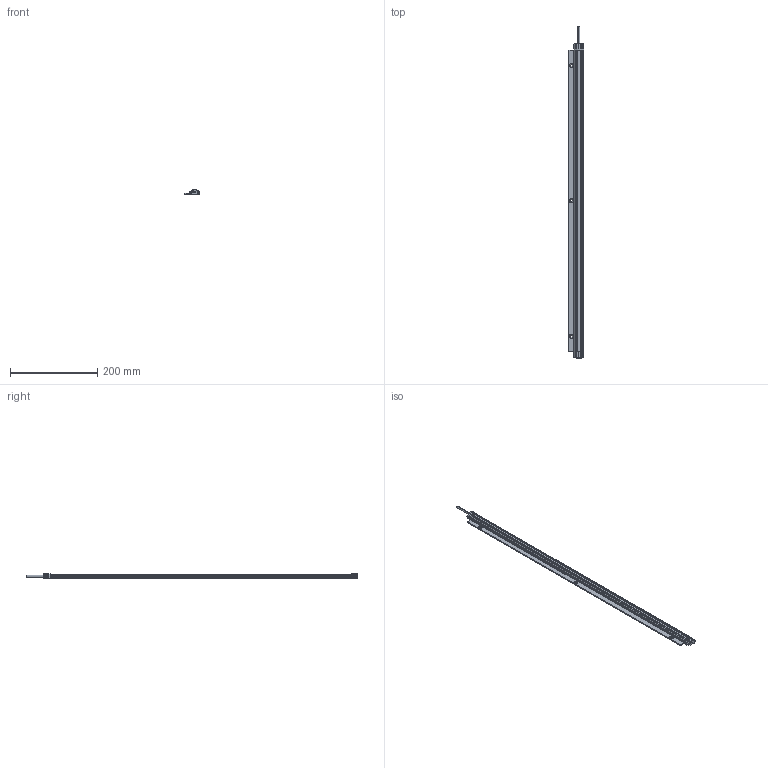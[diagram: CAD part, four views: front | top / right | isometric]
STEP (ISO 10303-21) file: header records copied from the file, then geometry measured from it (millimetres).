
FILE_DESCRIPTION (( 'STEP AP214' ), '1' );
FILE_NAME ('ILGA-L-K1-0720mm.STEP', '2026-04-24T23:06:38', ( '' ), ( '' ), 'SwSTEP 2.0', 'SolidWorks 2025', '' );
FILE_SCHEMA (( 'AUTOMOTIVE_DESIGN' ));
Length unit declared in the file: millimetre
Products named in the file (1): ILGA-L-K1-0720mm
Bounding box: 35 x 760 x 10.7 mm (x, y, z)
Volume: 75930 mm3; surface area: 111589.3 mm2
Topology: 9 solids, 9 shells, 678 faces, 1762 edges, 1076 vertices
Faces by surface type: plane 293, cylinder 245, cone 58, torus 42, bspline 24, sphere 16
Entity records: 28479 total; most frequent: CARTESIAN_POINT 4417, DIRECTION 3592, ORIENTED_EDGE 3436, EDGE_CURVE 1718, AXIS2_PLACEMENT_3D 1339, VERTEX_POINT 1076, VECTOR 914, LINE 914
